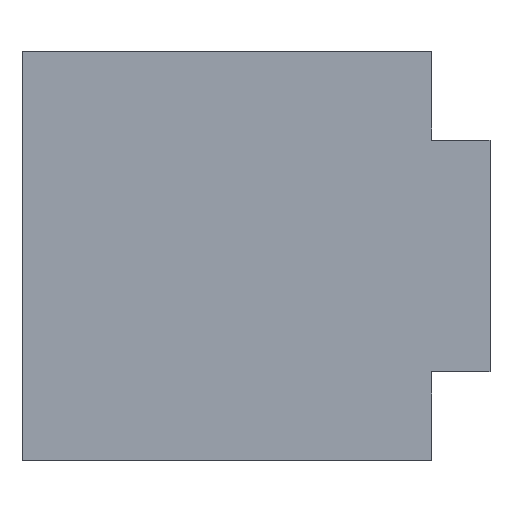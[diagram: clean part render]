
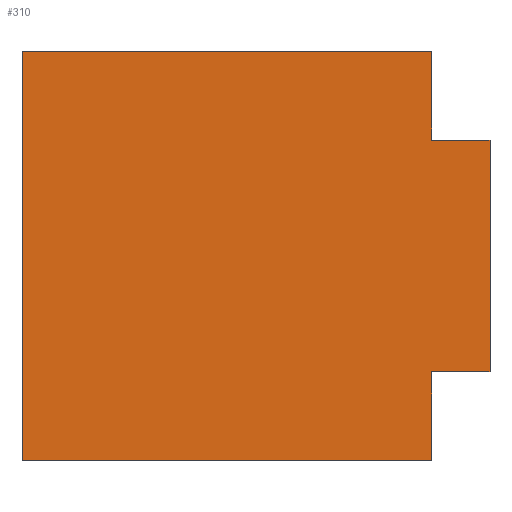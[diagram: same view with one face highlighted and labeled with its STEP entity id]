
A CAD part, top view. The second image highlights one B-rep face of the part: STEP entity #310.
In plain terms, the highlighted planar face has unit normal (0, 0, 1).
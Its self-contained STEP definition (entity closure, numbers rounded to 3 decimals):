
#70=CARTESIAN_POINT('Vertex',(35.,540.794,163.4)) ;
#73=CARTESIAN_POINT('Line Origine',(40.,540.794,163.4)) ;
#77=CARTESIAN_POINT('Vertex',(45.,540.794,163.4)) ;
#108=CARTESIAN_POINT('Vertex',(35.,555.994,163.4)) ;
#111=CARTESIAN_POINT('Line Origine',(35.,548.394,163.4)) ;
#139=CARTESIAN_POINT('Vertex',(-35.,555.994,163.4)) ;
#142=CARTESIAN_POINT('Line Origine',(0.,555.994,163.4)) ;
#170=CARTESIAN_POINT('Vertex',(-35.,485.994,163.4)) ;
#173=CARTESIAN_POINT('Line Origine',(-35.,520.994,163.4)) ;
#201=CARTESIAN_POINT('Vertex',(35.,485.994,163.4)) ;
#204=CARTESIAN_POINT('Line Origine',(0.,485.994,163.4)) ;
#227=CARTESIAN_POINT('Vertex',(35.,501.194,163.4)) ;
#230=CARTESIAN_POINT('Line Origine',(35.,493.594,163.4)) ;
#258=CARTESIAN_POINT('Vertex',(45.,501.194,163.4)) ;
#261=CARTESIAN_POINT('Line Origine',(40.,501.194,163.4)) ;
#283=CARTESIAN_POINT('Line Origine',(45.,520.994,163.4)) ;
#295=CARTESIAN_POINT('Axis2P3D Location',(0.,0.,163.4)) ;
#74=DIRECTION('Vector Direction',(-1.,0.,0.)) ;
#112=DIRECTION('Vector Direction',(0.,1.,0.)) ;
#143=DIRECTION('Vector Direction',(1.,0.,0.)) ;
#174=DIRECTION('Vector Direction',(0.,1.,0.)) ;
#205=DIRECTION('Vector Direction',(-1.,0.,0.)) ;
#231=DIRECTION('Vector Direction',(0.,-1.,0.)) ;
#262=DIRECTION('Vector Direction',(1.,0.,0.)) ;
#284=DIRECTION('Vector Direction',(0.,1.,0.)) ;
#296=DIRECTION('Axis2P3D Direction',(0.,0.,1.)) ;
#297=DIRECTION('Axis2P3D XDirection',(1.,-0.,0.)) ;
#298=AXIS2_PLACEMENT_3D('Plane Axis2P3D',#295,#296,#297) ;
#301=ORIENTED_EDGE('',*,*,#79,.T.) ;
#302=ORIENTED_EDGE('',*,*,#115,.T.) ;
#303=ORIENTED_EDGE('',*,*,#146,.T.) ;
#304=ORIENTED_EDGE('',*,*,#177,.T.) ;
#305=ORIENTED_EDGE('',*,*,#208,.T.) ;
#306=ORIENTED_EDGE('',*,*,#234,.T.) ;
#307=ORIENTED_EDGE('',*,*,#265,.T.) ;
#308=ORIENTED_EDGE('',*,*,#287,.T.) ;
#75=VECTOR('Line Direction',#74,1.) ;
#113=VECTOR('Line Direction',#112,1.) ;
#144=VECTOR('Line Direction',#143,1.) ;
#175=VECTOR('Line Direction',#174,1.) ;
#206=VECTOR('Line Direction',#205,1.) ;
#232=VECTOR('Line Direction',#231,1.) ;
#263=VECTOR('Line Direction',#262,1.) ;
#285=VECTOR('Line Direction',#284,1.) ;
#310=ADVANCED_FACE('PartBody',(#309),#299,.T.) ;
#79=EDGE_CURVE('',#78,#71,#76,.T.) ;
#115=EDGE_CURVE('',#71,#109,#114,.T.) ;
#146=EDGE_CURVE('',#109,#140,#145,.F.) ;
#177=EDGE_CURVE('',#140,#171,#176,.F.) ;
#208=EDGE_CURVE('',#171,#202,#207,.F.) ;
#234=EDGE_CURVE('',#202,#228,#233,.F.) ;
#265=EDGE_CURVE('',#228,#259,#264,.T.) ;
#287=EDGE_CURVE('',#259,#78,#286,.T.) ;
#300=EDGE_LOOP('',(#301,#302,#303,#304,#305,#306,#307,#308)) ;
#309=FACE_OUTER_BOUND('',#300,.T.) ;
#76=LINE('Line',#73,#75) ;
#114=LINE('Line',#111,#113) ;
#145=LINE('Line',#142,#144) ;
#176=LINE('Line',#173,#175) ;
#207=LINE('Line',#204,#206) ;
#233=LINE('Line',#230,#232) ;
#264=LINE('Line',#261,#263) ;
#286=LINE('Line',#283,#285) ;
#299=PLANE('Plane',#298) ;
#71=VERTEX_POINT('',#70) ;
#78=VERTEX_POINT('',#77) ;
#109=VERTEX_POINT('',#108) ;
#140=VERTEX_POINT('',#139) ;
#171=VERTEX_POINT('',#170) ;
#202=VERTEX_POINT('',#201) ;
#228=VERTEX_POINT('',#227) ;
#259=VERTEX_POINT('',#258) ;
